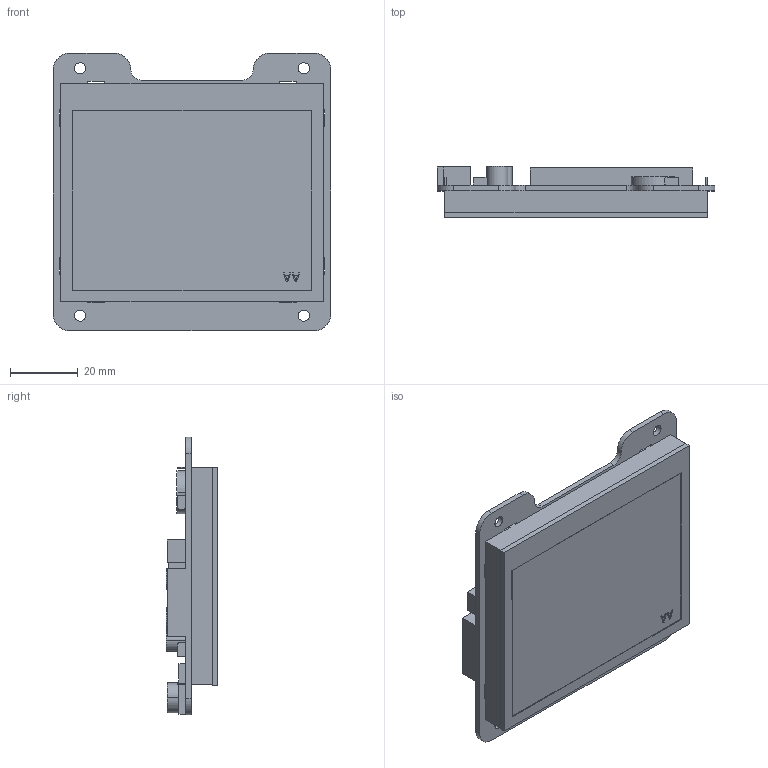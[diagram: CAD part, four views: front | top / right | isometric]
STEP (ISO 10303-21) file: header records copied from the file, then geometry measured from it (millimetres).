
FILE_DESCRIPTION((''),'2;1');
FILE_NAME('DMG64480K035-03WTC_ASM','2022-02-22T',('Administrator'),(''),'PRO/ENGINEER BY PARAMETRIC TECHNOLOGY CORPORATION, 2014320','PRO/ENGINEER BY PARAMETRIC TECHNOLOGY CORPORATION, 2014320','');
FILE_SCHEMA(('CONFIG_CONTROL_DESIGN','SHAPE_APPEARANCE_LAYERS_GROUPS'));
Length unit declared in the file: millimetre
Products named in the file (5): TK035---; LCM; PCB; RTP; DMG64480K035-03WTC_ASM
Assembly tree (4 placements, depth 2):
  DMG64480K035-03WTC_ASM
    TK035---
    LCM
    PCB
    RTP
Bounding box: 82 x 15.1 x 82 mm (x, y, z)
Volume: 43308.5 mm3; surface area: 42470.8 mm2
Topology: 4 solids, 4 shells, 250 faces, 672 edges, 448 vertices
Faces by surface type: plane 200, cylinder 50
Entity records: 9068 total; most frequent: CARTESIAN_POINT 1379, ORIENTED_EDGE 1344, DIRECTION 1290, EDGE_CURVE 672, VECTOR 572, LINE 572, VERTEX_POINT 448, AXIS2_PLACEMENT_3D 359
